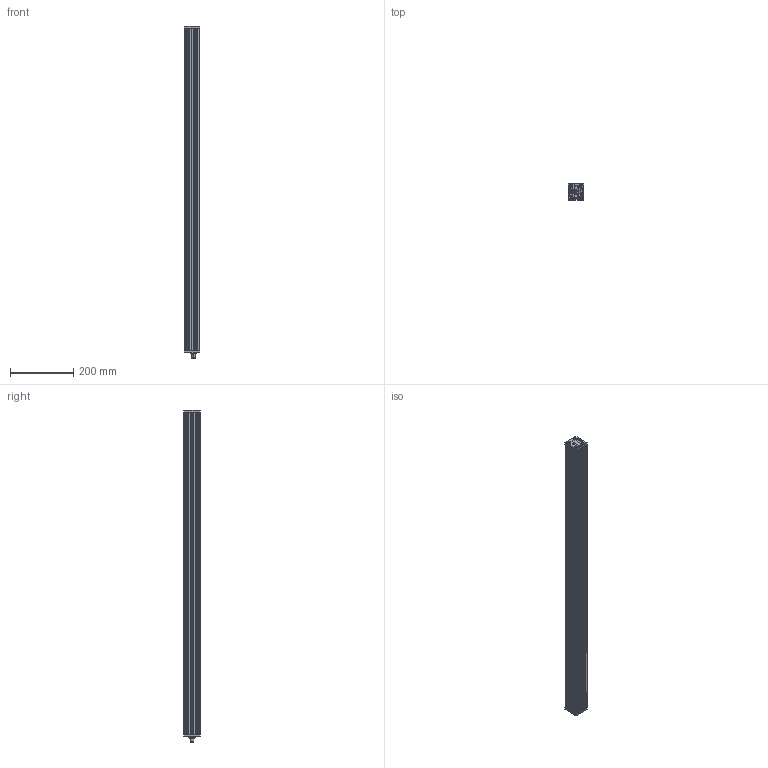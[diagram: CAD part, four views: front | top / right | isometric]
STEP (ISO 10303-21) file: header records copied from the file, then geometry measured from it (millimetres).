
FILE_DESCRIPTION (( 'STEP AP214' ), '1' );
FILE_NAME ('008826A.STEP', '2018-10-16T07:44:18', ( '' ), ( '' ), 'SwSTEP 2.0', 'SolidWorks 2018', '' );
FILE_SCHEMA (( 'AUTOMOTIVE_DESIGN' ));
Length unit declared in the file: millimetre
Products named in the file (8): 000096; 008826A; 000959; 001596A1023; 000605; 008769; 000958; 001161A1023
Assembly tree (15 placements, depth 2):
  008826A
    000958
    000096
    000959
    001596A1023
    000605  x6
    008769  x4
    001161A1023
Bounding box: 49 x 51 x 1052.2 mm (x, y, z)
Volume: 1085278 mm3; surface area: 858049.7 mm2
Topology: 17 solids, 17 shells, 3036 faces, 8235 edges, 5430 vertices
Faces by surface type: plane 1685, bspline 598, cylinder 549, cone 202, torus 2
Entity records: 132365 total; most frequent: CARTESIAN_POINT 61488, ORIENTED_EDGE 15488, DIRECTION 12237, EDGE_CURVE 7744, VECTOR 5203, LINE 5203, VERTEX_POINT 5141, AXIS2_PLACEMENT_3D 3517
